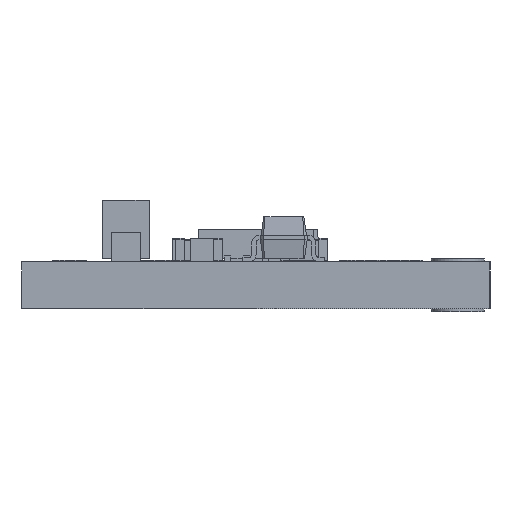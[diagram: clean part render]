
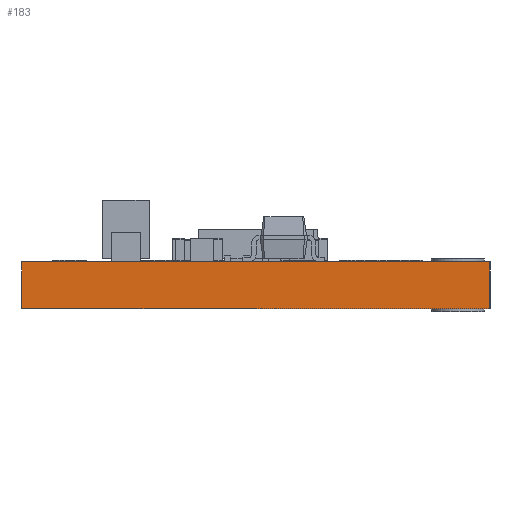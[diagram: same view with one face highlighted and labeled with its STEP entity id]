
A CAD part, left-side view. The second image highlights one B-rep face of the part: STEP entity #183.
In plain terms, the highlighted planar face has unit normal (-1, 0, 0).
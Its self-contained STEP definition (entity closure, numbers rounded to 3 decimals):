
#183 = ADVANCED_FACE('',(#184),#198,.T.);
#184 = FACE_BOUND('',#185,.T.);
#185 = EDGE_LOOP('',(#186,#221,#249,#277));
#186 = ORIENTED_EDGE('',*,*,#187,.T.);
#187 = EDGE_CURVE('',#188,#190,#192,.T.);
#188 = VERTEX_POINT('',#189);
#189 = CARTESIAN_POINT('',(-10.5,8.,0.));
#190 = VERTEX_POINT('',#191);
#191 = CARTESIAN_POINT('',(-10.5,8.,-1.6));
#192 = SURFACE_CURVE('',#193,(#197,#209),.PCURVE_S1.);
#193 = LINE('',#194,#195);
#194 = CARTESIAN_POINT('',(-10.5,8.,0.));
#195 = VECTOR('',#196,1.);
#196 = DIRECTION('',(-0.,-0.,-1.));
#197 = PCURVE('',#198,#203);
#198 = PLANE('',#199);
#199 = AXIS2_PLACEMENT_3D('',#200,#201,#202);
#200 = CARTESIAN_POINT('',(-10.5,8.,0.));
#201 = DIRECTION('',(-1.,0.,0.));
#202 = DIRECTION('',(0.,-1.,0.));
#203 = DEFINITIONAL_REPRESENTATION('',(#204),#208);
#204 = LINE('',#205,#206);
#205 = CARTESIAN_POINT('',(0.,0.));
#206 = VECTOR('',#207,1.);
#207 = DIRECTION('',(0.,-1.));
#208 = ( GEOMETRIC_REPRESENTATION_CONTEXT(2) 
PARAMETRIC_REPRESENTATION_CONTEXT() REPRESENTATION_CONTEXT('2D SPACE',''
  ) );
#209 = PCURVE('',#210,#215);
#210 = PLANE('',#211);
#211 = AXIS2_PLACEMENT_3D('',#212,#213,#214);
#212 = CARTESIAN_POINT('',(10.5,8.,0.));
#213 = DIRECTION('',(0.,1.,0.));
#214 = DIRECTION('',(-1.,0.,0.));
#215 = DEFINITIONAL_REPRESENTATION('',(#216),#220);
#216 = LINE('',#217,#218);
#217 = CARTESIAN_POINT('',(21.,0.));
#218 = VECTOR('',#219,1.);
#219 = DIRECTION('',(0.,-1.));
#220 = ( GEOMETRIC_REPRESENTATION_CONTEXT(2) 
PARAMETRIC_REPRESENTATION_CONTEXT() REPRESENTATION_CONTEXT('2D SPACE',''
  ) );
#221 = ORIENTED_EDGE('',*,*,#222,.T.);
#222 = EDGE_CURVE('',#190,#223,#225,.T.);
#223 = VERTEX_POINT('',#224);
#224 = CARTESIAN_POINT('',(-10.5,-8.,-1.6));
#225 = SURFACE_CURVE('',#226,(#230,#237),.PCURVE_S1.);
#226 = LINE('',#227,#228);
#227 = CARTESIAN_POINT('',(-10.5,8.,-1.6));
#228 = VECTOR('',#229,1.);
#229 = DIRECTION('',(0.,-1.,0.));
#230 = PCURVE('',#198,#231);
#231 = DEFINITIONAL_REPRESENTATION('',(#232),#236);
#232 = LINE('',#233,#234);
#233 = CARTESIAN_POINT('',(0.,-1.6));
#234 = VECTOR('',#235,1.);
#235 = DIRECTION('',(1.,0.));
#236 = ( GEOMETRIC_REPRESENTATION_CONTEXT(2) 
PARAMETRIC_REPRESENTATION_CONTEXT() REPRESENTATION_CONTEXT('2D SPACE',''
  ) );
#237 = PCURVE('',#238,#243);
#238 = PLANE('',#239);
#239 = AXIS2_PLACEMENT_3D('',#240,#241,#242);
#240 = CARTESIAN_POINT('',(0.,-0.565,-1.6));
#241 = DIRECTION('',(0.,0.,1.));
#242 = DIRECTION('',(1.,0.,0.));
#243 = DEFINITIONAL_REPRESENTATION('',(#244),#248);
#244 = LINE('',#245,#246);
#245 = CARTESIAN_POINT('',(-10.5,8.565));
#246 = VECTOR('',#247,1.);
#247 = DIRECTION('',(0.,-1.));
#248 = ( GEOMETRIC_REPRESENTATION_CONTEXT(2) 
PARAMETRIC_REPRESENTATION_CONTEXT() REPRESENTATION_CONTEXT('2D SPACE',''
  ) );
#249 = ORIENTED_EDGE('',*,*,#250,.F.);
#250 = EDGE_CURVE('',#251,#223,#253,.T.);
#251 = VERTEX_POINT('',#252);
#252 = CARTESIAN_POINT('',(-10.5,-8.,0.));
#253 = SURFACE_CURVE('',#254,(#258,#265),.PCURVE_S1.);
#254 = LINE('',#255,#256);
#255 = CARTESIAN_POINT('',(-10.5,-8.,0.));
#256 = VECTOR('',#257,1.);
#257 = DIRECTION('',(-0.,-0.,-1.));
#258 = PCURVE('',#198,#259);
#259 = DEFINITIONAL_REPRESENTATION('',(#260),#264);
#260 = LINE('',#261,#262);
#261 = CARTESIAN_POINT('',(16.,0.));
#262 = VECTOR('',#263,1.);
#263 = DIRECTION('',(0.,-1.));
#264 = ( GEOMETRIC_REPRESENTATION_CONTEXT(2) 
PARAMETRIC_REPRESENTATION_CONTEXT() REPRESENTATION_CONTEXT('2D SPACE',''
  ) );
#265 = PCURVE('',#266,#271);
#266 = PLANE('',#267);
#267 = AXIS2_PLACEMENT_3D('',#268,#269,#270);
#268 = CARTESIAN_POINT('',(-10.5,-8.,0.));
#269 = DIRECTION('',(0.,-1.,0.));
#270 = DIRECTION('',(1.,0.,0.));
#271 = DEFINITIONAL_REPRESENTATION('',(#272),#276);
#272 = LINE('',#273,#274);
#273 = CARTESIAN_POINT('',(0.,0.));
#274 = VECTOR('',#275,1.);
#275 = DIRECTION('',(0.,-1.));
#276 = ( GEOMETRIC_REPRESENTATION_CONTEXT(2) 
PARAMETRIC_REPRESENTATION_CONTEXT() REPRESENTATION_CONTEXT('2D SPACE',''
  ) );
#277 = ORIENTED_EDGE('',*,*,#278,.F.);
#278 = EDGE_CURVE('',#188,#251,#279,.T.);
#279 = SURFACE_CURVE('',#280,(#284,#291),.PCURVE_S1.);
#280 = LINE('',#281,#282);
#281 = CARTESIAN_POINT('',(-10.5,8.,0.));
#282 = VECTOR('',#283,1.);
#283 = DIRECTION('',(0.,-1.,0.));
#284 = PCURVE('',#198,#285);
#285 = DEFINITIONAL_REPRESENTATION('',(#286),#290);
#286 = LINE('',#287,#288);
#287 = CARTESIAN_POINT('',(0.,0.));
#288 = VECTOR('',#289,1.);
#289 = DIRECTION('',(1.,0.));
#290 = ( GEOMETRIC_REPRESENTATION_CONTEXT(2) 
PARAMETRIC_REPRESENTATION_CONTEXT() REPRESENTATION_CONTEXT('2D SPACE',''
  ) );
#291 = PCURVE('',#292,#297);
#292 = PLANE('',#293);
#293 = AXIS2_PLACEMENT_3D('',#294,#295,#296);
#294 = CARTESIAN_POINT('',(0.,-0.565,0.));
#295 = DIRECTION('',(0.,0.,1.));
#296 = DIRECTION('',(1.,0.,0.));
#297 = DEFINITIONAL_REPRESENTATION('',(#298),#302);
#298 = LINE('',#299,#300);
#299 = CARTESIAN_POINT('',(-10.5,8.565));
#300 = VECTOR('',#301,1.);
#301 = DIRECTION('',(0.,-1.));
#302 = ( GEOMETRIC_REPRESENTATION_CONTEXT(2) 
PARAMETRIC_REPRESENTATION_CONTEXT() REPRESENTATION_CONTEXT('2D SPACE',''
  ) );
